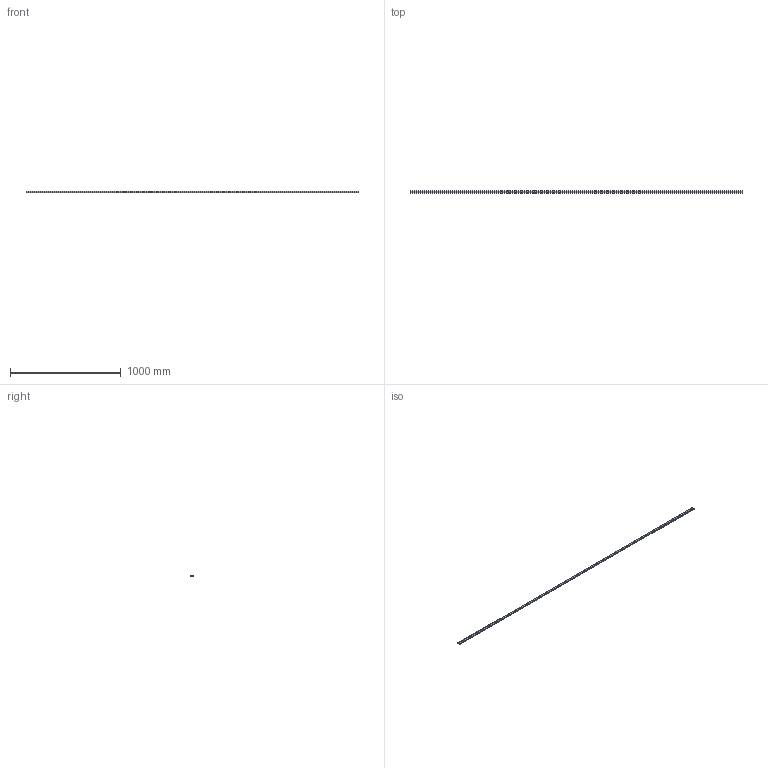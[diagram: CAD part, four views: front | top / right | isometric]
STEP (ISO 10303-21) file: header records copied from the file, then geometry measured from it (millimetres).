
FILE_DESCRIPTION (( 'STEP AP214' ), '1' );
FILE_NAME ('FABER - FGRR 3x20x10.STEP', '2017-04-06T07:32:10', ( '' ), ( '' ), 'SwSTEP 2.0', 'SolidWorks 2016', '' );
FILE_SCHEMA (( 'AUTOMOTIVE_DESIGN' ));
Length unit declared in the file: millimetre
Products named in the file (1): FABER - FGRR 3x20x10
Bounding box: 3000 x 19.48 x 10 mm (x, y, z)
Volume: 318410.3 mm3; surface area: 288787 mm2
Topology: 1 solids, 1 shells, 26 faces, 72 edges, 48 vertices
Faces by surface type: cylinder 14, plane 12
Entity records: 882 total; most frequent: DIRECTION 154, CARTESIAN_POINT 147, ORIENTED_EDGE 144, EDGE_CURVE 72, AXIS2_PLACEMENT_3D 55, VERTEX_POINT 48, LINE 44, VECTOR 44
